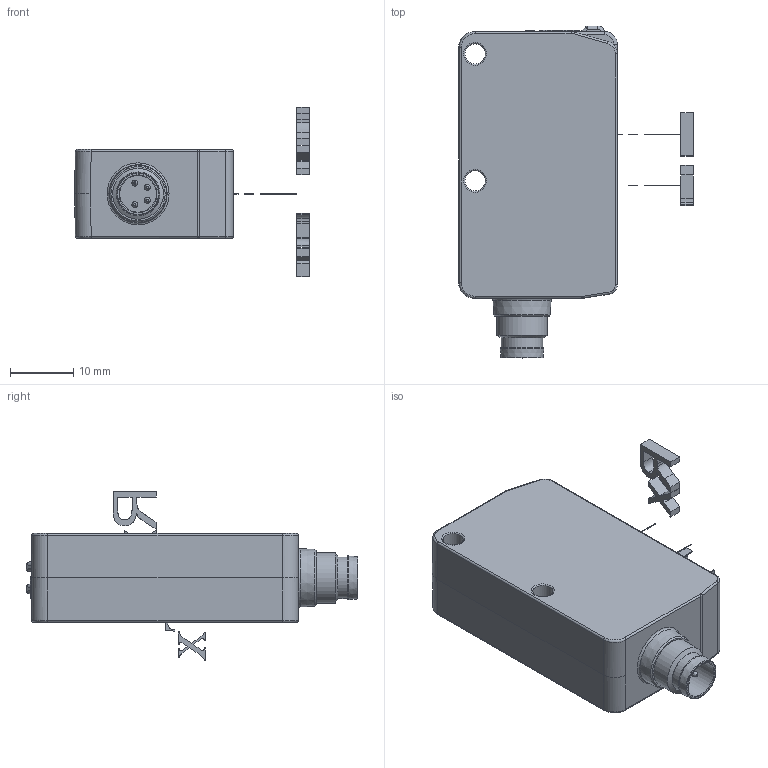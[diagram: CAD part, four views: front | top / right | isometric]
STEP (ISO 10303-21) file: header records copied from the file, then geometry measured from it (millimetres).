
FILE_DESCRIPTION(/* description */ (''),/* implementation_level */ '2;1');
FILE_NAME(/* name */ 'DSD-0203.stp',/* time_stamp */ '2020-09-22T14:20:37+02:00',/* author */ (''),/* organization */ (''),/* preprocessor_version */ 'ST-DEVELOPER v16.7',/* originating_system */ 'SIEMENS PLM Software NX 12.0',/* authorisation */ '');
FILE_SCHEMA (('AUTOMOTIVE_DESIGN { 1 0 10303 214 3 1 1 1 }'));
Length unit declared in the file: millimetre
Products named in the file (1): MBra1EA089BB277e
Bounding box: 37 x 52.3 x 26.68 mm (x, y, z)
Volume: 83.7 mm3; surface area: 5124 mm2
Topology: 6 solids, 10 shells, 461 faces, 1163 edges, 731 vertices
Faces by surface type: bspline 176, cylinder 145, plane 114, torus 11, cone 9, sphere 6
Full cylindrical faces by diameter (mm): 0.95 x4, 1.4 x2, 2.85 x2, 2.95 x2, 3.2 x2, 5.77 x1, 6.52 x1, 6.9 x1, 8 x1
Entity records: 17835 total; most frequent: CARTESIAN_POINT 5089, ORIENTED_EDGE 2175, DIRECTION 1495, EDGE_CURVE 1090, VERTEX_POINT 712, AXIS2_PLACEMENT_3D 593, EDGE_LOOP 535, PRESENTATION_STYLE_ASSIGNMENT 468
